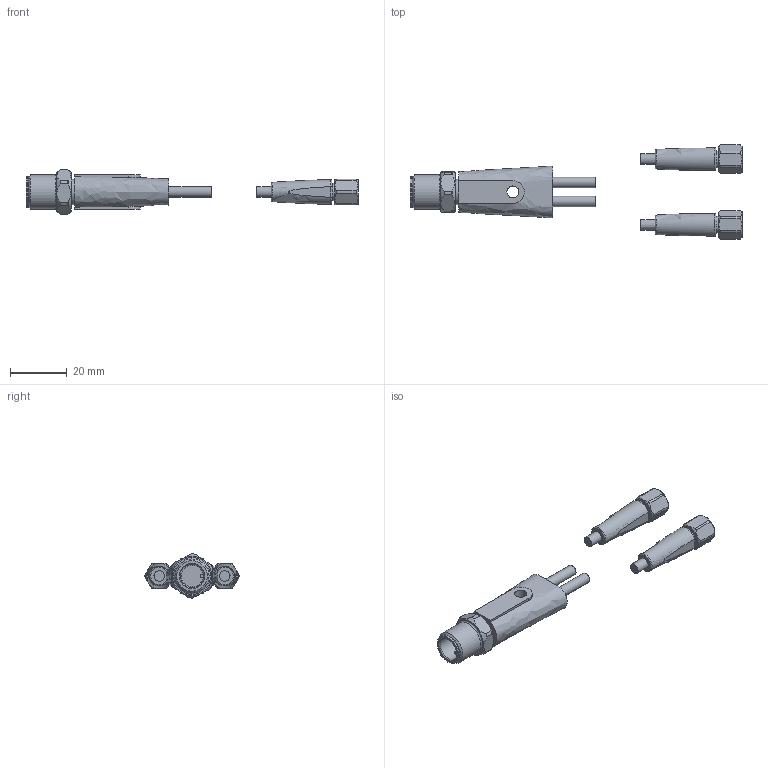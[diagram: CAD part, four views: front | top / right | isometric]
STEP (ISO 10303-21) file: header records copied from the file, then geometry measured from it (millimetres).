
FILE_DESCRIPTION(/* description */ ('STEP AP203'),/* implementation_level */ '2;1');
FILE_NAME(/* name */ 'EVM064',/* time_stamp */ '2024-12-12T13:42:40+01:00',/* author */ ('License CC BY-ND 4.0'),/* organization */ ('CADENAS'),/* preprocessor_version */ 'ST-DEVELOPER v19.3',/* originating_system */ 'PARTsolutions',/* authorisation */ ' ');
FILE_SCHEMA (('CONFIG_CONTROL_DESIGN'));
Length unit declared in the file: millimetre
Products named in the file (3): EVM064; P_MZ_SUV_0516_P1; P_MZ_SUV_0516_P2
Assembly tree (3 placements, depth 2):
  EVM064
    P_MZ_SUV_0516_P1
    P_MZ_SUV_0516_P2  x2
Bounding box: 116.6 x 33.02 x 15.5 mm (x, y, z)
Volume: 10001.6 mm3; surface area: 5913.6 mm2
Topology: 3 solids, 3 shells, 165 faces, 405 edges, 264 vertices
Faces by surface type: plane 55, cylinder 47, torus 40, cone 22, bspline 1
Full cylindrical faces by diameter (mm): 3.7 x4, 4.2 x1, 6 x2, 6.917 x2, 8.3 x1, 8.9 x1, 9.9 x1, 10.7 x1, 12 x1
Entity records: 4173 total; most frequent: CARTESIAN_POINT 936, ORIENTED_EDGE 484, DIRECTION 478, EDGE_CURVE 242, AXIS2_PLACEMENT_3D 211, VERTEX_POINT 171, EDGE_LOOP 147, FACE_BOUND 147
